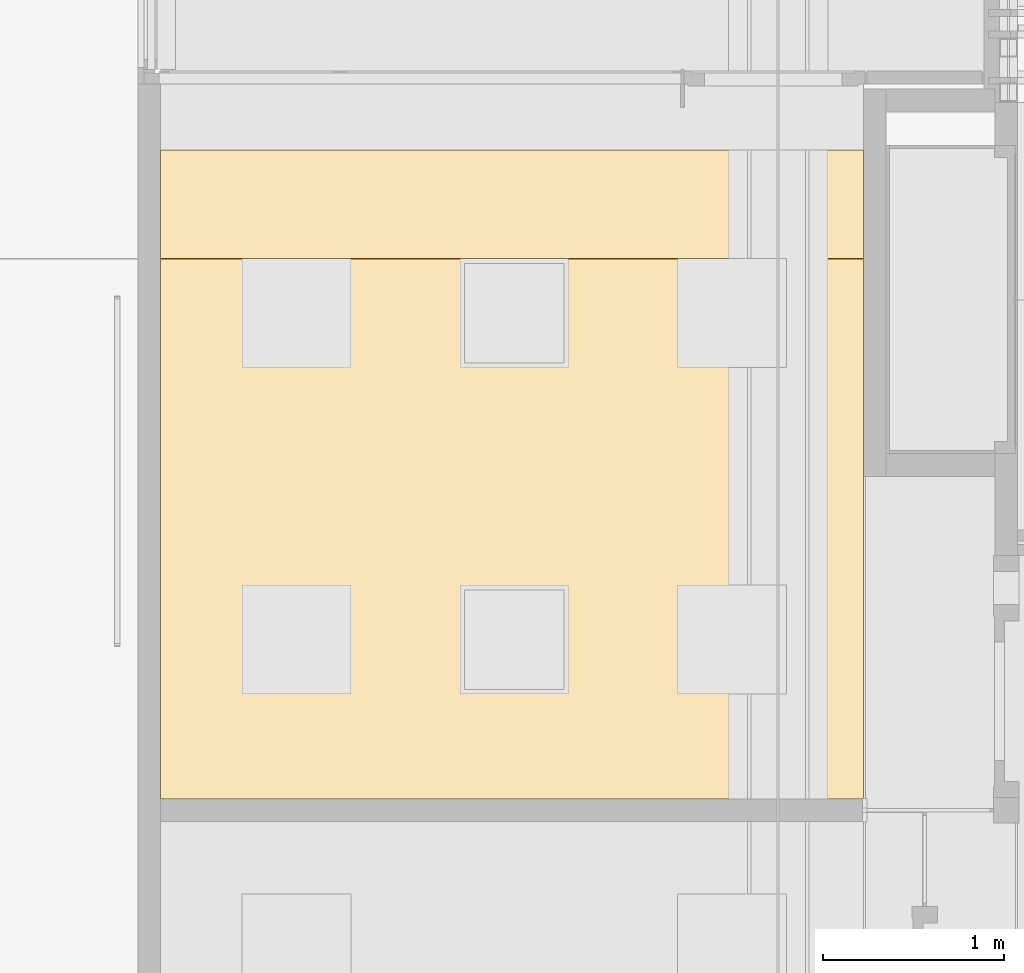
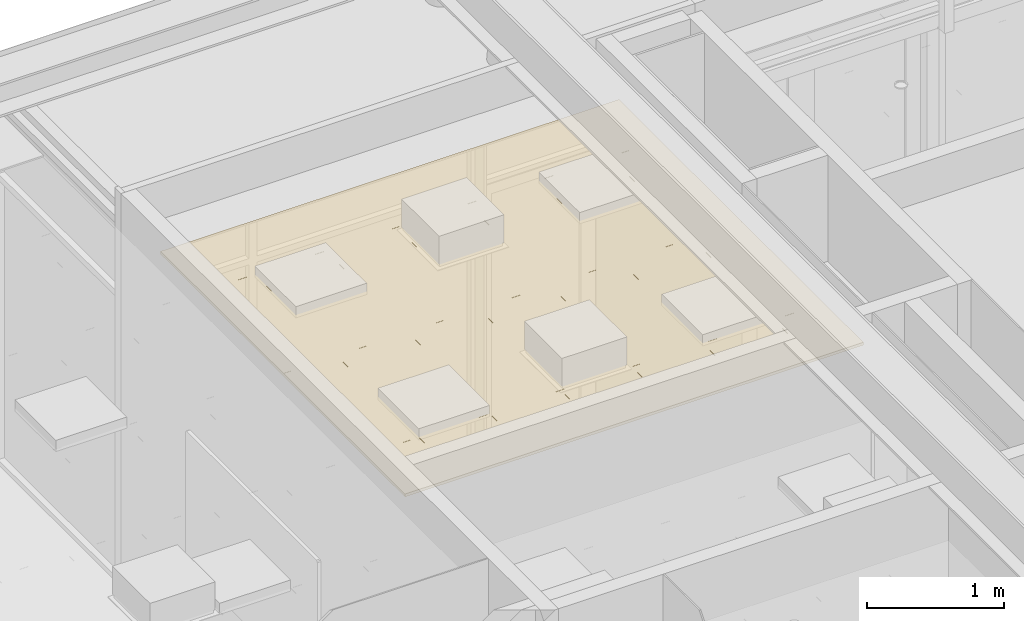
# One storey, part 173 of 347: 1 covering.
"""IFC2X3 building model written with IfcOpenShell, lengths in millimetres."""

from ifc_helpers import new_model, entity, si_unit, converted_unit, derived_unit, money_unit, direction, frame, origin_with_axes, place, context, subcontext, project, spatial, faceted_brep, type_object, element, save


model = new_model("IFC2X3")

# Units and contexts
model_context = context("Model", 3, precision=0.01, world=origin_with_axes(), true_north=direction((0.0, 1.0)))
plan_context = context("Plan", 3, precision=0.01, world=origin_with_axes(), true_north=direction((0.0, 1.0)))
body_context = subcontext(model_context, "Body", "Model", "MODEL_VIEW")
ifc_project = project(units=[si_unit("LENGTHUNIT", "METRE", prefix="MILLI"), si_unit("AREAUNIT", "SQUARE_METRE"), si_unit("VOLUMEUNIT", "CUBIC_METRE"), converted_unit("PLANEANGLEUNIT", "DEGREE", entity("IfcPlaneAngleMeasure", 0.0174532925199), si_unit("PLANEANGLEUNIT", "RADIAN"), dimensions=[0, 0, 0, 0, 0, 0, 0]), money_unit("EUR"), converted_unit("TIMEUNIT", "Year", entity("IfcTimeMeasure", 31556926.0), si_unit("TIMEUNIT", "SECOND"), dimensions=[0, 0, 1, 0, 0, 0, 0]), si_unit("MASSUNIT", "GRAM", prefix="KILO"), si_unit("THERMODYNAMICTEMPERATUREUNIT", "DEGREE_CELSIUS"), si_unit("LUMINOUSINTENSITYUNIT", "LUMEN"), si_unit("ENERGYUNIT", "JOULE", prefix="MEGA"), derived_unit("THERMALCONDUCTANCEUNIT", [(si_unit("POWERUNIT", "WATT"), 1), (si_unit("LENGTHUNIT", "METRE"), -1), (si_unit("THERMODYNAMICTEMPERATUREUNIT", "KELVIN"), -1)]), derived_unit("SPECIFICHEATCAPACITYUNIT", [(si_unit("ENERGYUNIT", "JOULE"), 1), (si_unit("MASSUNIT", "GRAM", prefix="KILO"), -1), (si_unit("THERMODYNAMICTEMPERATUREUNIT", "KELVIN"), -1)]), derived_unit("MASSDENSITYUNIT", [(si_unit("MASSUNIT", "GRAM", prefix="KILO"), 1), (si_unit("VOLUMEUNIT", "CUBIC_METRE"), -1)])], contexts=[model_context, plan_context])

# Site, building, storey
site_placement = place(None, origin_with_axes())
site = spatial("IfcSite", under=ifc_project, at=site_placement, Name="Site", CompositionType="ELEMENT")
building_placement = place(site_placement, origin_with_axes())
building = spatial("IfcBuilding", under=site, at=building_placement, Name="Naam gebouw", CompositionType="ELEMENT")
storey_placement = place(building_placement, origin_with_axes())
storey = spatial("IfcBuildingStorey", under=building, at=storey_placement, Name="begane grond", CompositionType="ELEMENT", Elevation=0.0)

# Covering
covering_type = type_object("IfcCoveringType", Name="Ceiling Editor INT_v2.01", PredefinedType="CEILING")
covering_placement = place(storey_placement, frame((32200.0, 41212.5, 3200.0), z_axis=(0.0, 0.0, 1.0), x_axis=(1.0, 0.0, 0.0)))
element("IfcCovering", 1, at=covering_placement, inside=storey, type_object=covering_type, Name="45 Plafondafwerkingen_77 garderobe", PredefinedType="CEILING", context=body_context, shape_type="Brep", body=[
    faceted_brep([(0.0, 0.0, 20.0), (449.9, 0.0, 20.0), (449.9, 577.9, 20.0), (0.0, 577.9, 20.0), (0.0, 0.0, 0.0), (449.9, 0.0, 0.0), (449.9, 577.9, 0.0), (0.0, 577.9, 0.0)], [[[0, 1, 2, 3]], [[1, 0, 4, 5]], [[1, 5, 6, 2]], [[7, 3, 2, 6]], [[3, 7, 4, 0]], [[4, 7, 6, 5]]]),
    faceted_brep([(0.0, 1777.9, 0.0), (0.0, 1777.9, 20.0), (449.9, 1777.9, 20.0), (449.9, 1777.9, 0.0), (0.0, 978.125, 0.0), (0.0, 978.125, 20.0), (0.0, 578.1, 20.0), (449.9, 578.1, 20.0), (449.9, 578.1, 0.0), (0.0, 578.1, 0.0)], [[[0, 1, 2, 3]], [[1, 0, 4, 5]], [[5, 6, 7, 2, 1]], [[7, 8, 3, 2]], [[4, 0, 3, 8, 9]], [[6, 5, 4, 9]], [[6, 9, 8, 7]]]),
    faceted_brep([(0.000220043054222, 2977.9, 0.0), (0.000220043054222, 2977.9, 20.0), (449.9, 2977.9, 20.0), (449.9, 2977.9, 0.0), (0.0, 2934.375, 0.0), (0.0, 2934.375, 20.0), (0.0, 1956.25, 20.0), (0.0, 1778.1, 20.0), (449.9, 1778.1, 20.0), (449.9, 1778.1, 0.0), (0.0, 1778.1, 0.0), (0.0, 1956.25, 0.0)], [[[0, 1, 2, 3]], [[1, 0, 4, 5]], [[6, 7, 8, 2, 1, 5]], [[8, 9, 3, 2]], [[4, 0, 3, 9, 10, 11]], [[6, 5, 4, 11]], [[7, 6, 11, 10]], [[7, 10, 9, 8]]]),
    faceted_brep([(449.9, 3578.5, 0.0), (449.9, 3578.5, 20.0), (449.9, 2978.1, 20.0), (449.9, 2978.1, 0.0), (0.00325640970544, 3578.5, 0.0), (0.00325640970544, 3578.5, 20.0), (0.000221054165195, 2978.1, 20.0), (0.000221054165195, 2978.1, 0.0)], [[[0, 1, 2, 3]], [[1, 0, 4, 5]], [[5, 6, 2, 1]], [[6, 7, 3, 2]], [[4, 0, 3, 7]], [[6, 5, 4, 7]]]),
    faceted_brep([(968.75, 0.0, 20.0), (1049.9, 0.0, 20.0), (1049.9, 577.9, 20.0), (450.1, 577.9, 20.0), (450.1, 0.0, 20.0), (968.75, 0.0, 0.0), (1049.9, 0.0, 0.0), (1049.9, 577.9, 0.0), (450.1, 577.9, 0.0), (450.1, 0.0, 0.0)], [[[0, 1, 2, 3, 4]], [[1, 0, 5, 6]], [[1, 6, 7, 2]], [[2, 7, 8, 3]], [[9, 4, 3, 8]], [[0, 4, 9, 5]], [[5, 9, 8, 7, 6]]]),
    faceted_brep([(1049.9, 578.1, 20.0), (1049.9, 578.1, 0.0), (1049.9, 1777.9, 0.0), (1049.9, 1777.9, 20.0), (450.1, 578.1, 20.0), (450.1, 578.1, 0.0), (450.1, 1777.9, 0.0), (450.1, 1777.9, 20.0)], [[[0, 1, 2, 3]], [[4, 5, 1, 0]], [[2, 1, 5, 6]], [[3, 2, 6, 7]], [[4, 0, 3, 7]], [[7, 6, 5, 4]]]),
    faceted_brep([(1049.9, 1778.1, 20.0), (1049.9, 1778.1, 0.0), (1049.9, 2977.9, 0.0), (1049.9, 2977.9, 20.0), (450.1, 1778.1, 20.0), (450.1, 1778.1, 0.0), (450.1, 2977.9, 0.0), (450.1, 2977.9, 20.0)], [[[0, 1, 2, 3]], [[4, 5, 1, 0]], [[2, 1, 5, 6]], [[3, 2, 6, 7]], [[4, 0, 3, 7]], [[7, 6, 5, 4]]]),
    faceted_brep([(1049.9, 3578.5, 0.0), (1049.9, 3578.5, 20.0), (1049.9, 2978.1, 20.0), (1049.9, 2978.1, 0.0), (450.1, 3578.5, 0.0), (450.1, 3578.5, 20.0), (450.1, 2978.1, 20.0), (450.1, 2978.1, 0.0)], [[[0, 1, 2, 3]], [[1, 0, 4, 5]], [[1, 5, 6, 2]], [[6, 7, 3, 2]], [[4, 0, 3, 7]], [[5, 4, 7, 6]]]),
    faceted_brep([(1050.1, 0.0, 20.0), (1649.9, 0.0, 20.0), (1649.9, 577.9, 20.0), (1050.1, 577.9, 20.0), (1050.1, 0.0, 0.0), (1649.9, 0.0, 0.0), (1649.9, 577.9, 0.0), (1050.1, 577.9, 0.0)], [[[0, 1, 2, 3]], [[1, 0, 4, 5]], [[1, 5, 6, 2]], [[2, 6, 7, 3]], [[4, 0, 3, 7]], [[5, 4, 7, 6]]]),
    faceted_brep([(1649.9, 578.1, 20.0), (1649.9, 578.1, 0.0), (1649.9, 1777.9, 0.0), (1649.9, 1777.9, 20.0), (1050.1, 578.1, 20.0), (1050.1, 578.1, 0.0), (1050.1, 1777.9, 0.0), (1050.1, 1777.9, 20.0)], [[[0, 1, 2, 3]], [[4, 5, 1, 0]], [[2, 1, 5, 6]], [[3, 2, 6, 7]], [[4, 0, 3, 7]], [[7, 6, 5, 4]]]),
    faceted_brep([(1649.9, 1778.1, 20.0), (1649.9, 1778.1, 0.0), (1649.9, 2977.9, 0.0), (1649.9, 2977.9, 20.0), (1050.1, 1778.1, 20.0), (1050.1, 1778.1, 0.0), (1050.1, 2977.9, 0.0), (1050.1, 2977.9, 20.0)], [[[0, 1, 2, 3]], [[4, 5, 1, 0]], [[2, 1, 5, 6]], [[3, 2, 6, 7]], [[4, 0, 3, 7]], [[7, 6, 5, 4]]]),
    faceted_brep([(1649.9, 3578.5, 0.0), (1649.9, 3578.5, 20.0), (1649.9, 2978.1, 20.0), (1649.9, 2978.1, 0.0), (1222.4308739, 3578.5, 0.0), (1222.4308739, 3578.5, 20.0), (1050.1, 3578.5, 20.0), (1050.1, 2978.1, 20.0), (1050.1, 2978.1, 0.0), (1050.1, 3578.5, 0.0)], [[[0, 1, 2, 3]], [[1, 0, 4, 5]], [[5, 6, 7, 2, 1]], [[7, 8, 3, 2]], [[4, 0, 3, 8, 9]], [[6, 5, 4, 9]], [[6, 9, 8, 7]]]),
    faceted_brep([(1937.5, 0.0, 20.0), (2249.9, 0.0, 20.0), (2249.9, 577.9, 20.0), (1650.1, 577.9, 20.0), (1650.1, 0.0, 20.0), (1937.5, 0.0, 0.0), (2249.9, 0.0, 0.0), (2249.9, 577.9, 0.0), (1650.1, 577.9, 0.0), (1650.1, 0.0, 0.0)], [[[0, 1, 2, 3, 4]], [[1, 0, 5, 6]], [[1, 6, 7, 2]], [[2, 7, 8, 3]], [[9, 4, 3, 8]], [[0, 4, 9, 5]], [[5, 9, 8, 7, 6]]]),
    faceted_brep([(2249.9, 578.1, 20.0), (2249.9, 578.1, 0.0), (2249.9, 1777.9, 0.0), (2249.9, 1777.9, 20.0), (1650.1, 578.1, 20.0), (1650.1, 578.1, 0.0), (1650.1, 1777.9, 0.0), (1650.1, 1777.9, 20.0)], [[[0, 1, 2, 3]], [[4, 5, 1, 0]], [[2, 1, 5, 6]], [[3, 2, 6, 7]], [[4, 0, 3, 7]], [[7, 6, 5, 4]]]),
    faceted_brep([(2249.9, 1778.1, 20.0), (2249.9, 1778.1, 0.0), (2249.9, 2977.9, 0.0), (2249.9, 2977.9, 20.0), (1650.1, 1778.1, 20.0), (1650.1, 1778.1, 0.0), (1650.1, 2977.9, 0.0), (1650.1, 2977.9, 20.0)], [[[0, 1, 2, 3]], [[4, 5, 1, 0]], [[2, 1, 5, 6]], [[3, 2, 6, 7]], [[4, 0, 3, 7]], [[7, 6, 5, 4]]]),
    faceted_brep([(2249.9, 3578.5, 0.0), (2249.9, 3578.5, 20.0), (2249.9, 2978.1, 20.0), (2249.9, 2978.1, 0.0), (2026.99503027, 3578.5, 0.0), (2026.99503027, 3578.5, 20.0), (1650.1, 3578.5, 20.0), (1650.1, 2978.1, 20.0), (1650.1, 2978.1, 0.0), (1650.1, 3578.5, 0.0)], [[[0, 1, 2, 3]], [[1, 0, 4, 5]], [[5, 6, 7, 2, 1]], [[7, 8, 3, 2]], [[4, 0, 3, 8, 9]], [[6, 5, 4, 9]], [[6, 9, 8, 7]]]),
    faceted_brep([(2250.1, 0.0, 20.0), (2849.9, 0.0, 20.0), (2849.9, 577.9, 20.0), (2250.1, 577.9, 20.0), (2250.1, 0.0, 0.0), (2849.9, 0.0, 0.0), (2849.9, 577.9, 0.0), (2250.1, 577.9, 0.0)], [[[0, 1, 2, 3]], [[1, 0, 4, 5]], [[1, 5, 6, 2]], [[2, 6, 7, 3]], [[4, 0, 3, 7]], [[5, 4, 7, 6]]]),
    faceted_brep([(2849.9, 578.1, 20.0), (2849.9, 578.1, 0.0), (2849.9, 1777.9, 0.0), (2849.9, 1777.9, 20.0), (2250.1, 578.1, 20.0), (2250.1, 578.1, 0.0), (2250.1, 1777.9, 0.0), (2250.1, 1777.9, 20.0)], [[[0, 1, 2, 3]], [[4, 5, 1, 0]], [[2, 1, 5, 6]], [[3, 2, 6, 7]], [[4, 0, 3, 7]], [[7, 6, 5, 4]]]),
    faceted_brep([(2849.9, 1778.1, 20.0), (2849.9, 1778.1, 0.0), (2849.9, 2977.9, 0.0), (2849.9, 2977.9, 20.0), (2250.1, 1778.1, 20.0), (2250.1, 1778.1, 0.0), (2250.1, 2977.9, 0.0), (2250.1, 2977.9, 20.0)], [[[0, 1, 2, 3]], [[4, 5, 1, 0]], [[2, 1, 5, 6]], [[3, 2, 6, 7]], [[4, 0, 3, 7]], [[7, 6, 5, 4]]]),
    faceted_brep([(2849.9, 3578.5, 0.0), (2849.9, 3578.5, 20.0), (2849.9, 2978.1, 20.0), (2849.9, 2978.1, 0.0), (2748.79430981, 3578.5, 0.0), (2748.79430981, 3578.5, 20.0), (2250.1, 3578.5, 20.0), (2250.1, 2978.1, 20.0), (2250.1, 2978.1, 0.0), (2250.1, 3578.5, 0.0)], [[[0, 1, 2, 3]], [[1, 0, 4, 5]], [[5, 6, 7, 2, 1]], [[7, 8, 3, 2]], [[4, 0, 3, 8, 9]], [[6, 5, 4, 9]], [[6, 9, 8, 7]]]),
    faceted_brep([(2906.25, 0.0, 20.0), (3449.9, 0.0, 20.0), (3449.9, 577.9, 20.0), (2850.1, 577.9, 20.0), (2850.1, 0.0, 20.0), (2906.25, 0.0, 0.0), (3449.9, 0.0, 0.0), (3449.9, 577.9, 0.0), (2850.1, 577.9, 0.0), (2850.1, 0.0, 0.0)], [[[0, 1, 2, 3, 4]], [[1, 0, 5, 6]], [[1, 6, 7, 2]], [[2, 7, 8, 3]], [[9, 4, 3, 8]], [[0, 4, 9, 5]], [[5, 9, 8, 7, 6]]]),
    faceted_brep([(3449.9, 578.1, 20.0), (3449.9, 578.1, 0.0), (3449.9, 1777.9, 0.0), (3449.9, 1777.9, 20.0), (2850.1, 578.1, 20.0), (2850.1, 578.1, 0.0), (2850.1, 1777.9, 0.0), (2850.1, 1777.9, 20.0)], [[[0, 1, 2, 3]], [[4, 5, 1, 0]], [[2, 1, 5, 6]], [[3, 2, 6, 7]], [[4, 0, 3, 7]], [[7, 6, 5, 4]]]),
    faceted_brep([(3449.9, 1778.1, 20.0), (3449.9, 1778.1, 0.0), (3449.9, 2977.9, 0.0), (3449.9, 2977.9, 20.0), (2850.1, 1778.1, 20.0), (2850.1, 1778.1, 0.0), (2850.1, 2977.9, 0.0), (2850.1, 2977.9, 20.0)], [[[0, 1, 2, 3]], [[4, 5, 1, 0]], [[2, 1, 5, 6]], [[3, 2, 6, 7]], [[4, 0, 3, 7]], [[7, 6, 5, 4]]]),
    faceted_brep([(3449.9, 3578.5, 0.0), (3449.9, 3578.5, 20.0), (3449.9, 2978.1, 20.0), (3449.9, 2978.1, 0.0), (2850.1, 3578.5, 0.0), (2850.1, 3578.5, 20.0), (2850.1, 2978.1, 20.0), (2850.1, 2978.1, 0.0)], [[[0, 1, 2, 3]], [[1, 0, 4, 5]], [[1, 5, 6, 2]], [[6, 7, 3, 2]], [[4, 0, 3, 7]], [[5, 4, 7, 6]]]),
    faceted_brep([(3875.0, 0.0, 20.0), (3875.0, 577.9, 20.0), (3450.1, 577.9, 20.0), (3450.1, 0.0, 20.0), (3875.0, 0.0, 0.0), (3875.0, 577.9, 0.0), (3450.1, 577.9, 0.0), (3450.1, 0.0, 0.0)], [[[0, 1, 2, 3]], [[1, 0, 4, 5]], [[1, 5, 6, 2]], [[7, 3, 2, 6]], [[0, 3, 7, 4]], [[4, 7, 6, 5]]]),
    faceted_brep([(3875.0, 578.1, 20.0), (3875.0, 1777.9, 20.0), (3450.1, 1777.9, 20.0), (3450.1, 578.1, 20.0), (3875.0, 578.1, 0.0), (3875.0, 1777.9, 0.0), (3450.1, 1777.9, 0.0), (3450.1, 578.1, 0.0)], [[[0, 1, 2, 3]], [[1, 0, 4, 5]], [[1, 5, 6, 2]], [[2, 6, 7, 3]], [[4, 0, 3, 7]], [[5, 4, 7, 6]]]),
    faceted_brep([(3875.0, 2934.375, 20.0), (3875.0, 2977.9, 20.0), (3450.1, 2977.9, 20.0), (3450.1, 1778.1, 20.0), (3875.0, 1778.1, 20.0), (3875.0, 2934.375, 0.0), (3875.0, 2977.9, 0.0), (3450.1, 2977.9, 0.0), (3450.1, 1778.1, 0.0), (3875.0, 1778.1, 0.0)], [[[0, 1, 2, 3, 4]], [[1, 0, 5, 6]], [[1, 6, 7, 2]], [[2, 7, 8, 3]], [[9, 4, 3, 8]], [[0, 4, 9, 5]], [[5, 9, 8, 7, 6]]]),
    faceted_brep([(3875.0, 2978.1, 20.0), (3875.0, 3578.5, 20.0), (3450.1, 3578.5, 20.0), (3450.1, 2978.1, 20.0), (3875.0, 2978.1, 0.0), (3875.0, 3578.5, 0.0), (3450.1, 3578.5, 0.0), (3450.1, 2978.1, 0.0)], [[[0, 1, 2, 3]], [[1, 0, 4, 5]], [[2, 1, 5, 6]], [[2, 6, 7, 3]], [[4, 0, 3, 7]], [[5, 4, 7, 6]]]),
    faceted_brep([(3875.0, 0.0, 0.0), (3875.0, 0.0, -5.0), (3875.0, 565.5, -5.0), (3875.0, 590.5, -5.0), (3875.0, 1765.5, -5.0), (3875.0, 1778.0, -5.0), (3875.0, 1778.0, 0.0), (3875.0, 1765.5, 0.0), (3875.0, 590.5, 0.0), (3875.0, 565.5, 0.0), (1662.5, 0.0, -5.0), (2237.5, 0.0, -5.0), (2262.5, 0.0, -5.0), (2837.5, 0.0, -5.0), (2862.5, 0.0, -5.0), (3437.5, 0.0, -5.0), (3462.5, 0.0, -5.0), (3462.5, 0.0, 0.0), (3437.5, 0.0, 0.0), (2862.5, 0.0, 0.0), (2837.5, 0.0, 0.0), (2262.5, 0.0, 0.0), (2237.5, 0.0, 0.0), (1662.5, 0.0, 0.0), (1637.5, 0.0, 0.0), (1062.5, 0.0, 0.0), (1037.5, 0.0, 0.0), (462.5, 0.0, 0.0), (437.5, 0.0, 0.0), (0.0, 0.0, 0.0), (0.0, 0.0, -5.0), (437.5, 0.0, -5.0), (462.5, 0.0, -5.0), (1037.5, 0.0, -5.0), (1062.5, 0.0, -5.0), (1637.5, 0.0, -5.0), (0.0, 565.5, -5.0), (0.0, 590.5, -5.0), (0.0, 1765.5, -5.0), (0.0, 1790.5, -5.0), (0.000157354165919, 2965.5, -5.0), (0.000283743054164, 2990.5, -5.0), (0.00325640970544, 3578.5, -5.0), (437.5, 3578.5, -5.0), (462.5, 3578.5, -5.0), (1037.5, 3578.5, -5.0), (1062.5, 3578.5, -5.0), (1637.5, 3578.5, -5.0), (1662.5, 3578.5, -5.0), (2237.5, 3578.5, -5.0), (2262.5, 3578.5, -5.0), (2837.5, 3578.5, -5.0), (2862.5, 3578.5, -5.0), (3437.5, 3578.5, -5.0), (3462.5, 3578.5, -5.0), (3875.0, 3578.5, -5.0), (3875.0, 2990.5, -5.0), (3875.0, 2965.5, -5.0), (3875.0, 1790.5, -5.0), (1037.5, 590.5, -5.0), (1037.5, 1765.5, -5.0), (462.5, 1765.5, -5.0), (462.5, 590.5, -5.0), (1637.5, 590.5, -5.0), (1637.5, 1765.5, -5.0), (1062.5, 1765.5, -5.0), (1062.5, 590.5, -5.0), (2237.5, 590.5, -5.0), (2237.5, 1765.5, -5.0), (1662.5, 1765.5, -5.0), (1662.5, 590.5, -5.0), (2837.5, 590.5, -5.0), (2837.5, 1765.5, -5.0), (2262.5, 1765.5, -5.0), (2262.5, 590.5, -5.0), (3437.5, 590.5, -5.0), (3437.5, 1765.5, -5.0), (2862.5, 1765.5, -5.0), (2862.5, 590.5, -5.0), (1037.5, 1790.5, -5.0), (1037.5, 2965.5, -5.0), (462.5, 2965.5, -5.0), (462.5, 1790.5, -5.0), (1637.5, 1790.5, -5.0), (1637.5, 2965.5, -5.0), (1062.5, 2965.5, -5.0), (1062.5, 1790.5, -5.0), (2237.5, 1790.5, -5.0), (2237.5, 2965.5, -5.0), (1662.5, 2965.5, -5.0), (1662.5, 1790.5, -5.0), (2837.5, 1790.5, -5.0), (2837.5, 2965.5, -5.0), (2262.5, 2965.5, -5.0), (2262.5, 1790.5, -5.0), (3437.5, 1790.5, -5.0), (3437.5, 2965.5, -5.0), (2862.5, 2965.5, -5.0), (2862.5, 1790.5, -5.0), (25.0, 565.5, -5.0), (25.0, 25.0, -5.0), (437.5, 25.0, -5.0), (437.5, 565.5, -5.0), (25.0, 1765.5, -5.0), (25.0, 590.5, -5.0), (437.5, 590.5, -5.0), (437.5, 1765.5, -5.0), (25.0001573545, 2965.5, -5.0), (25.0, 1790.5, -5.0), (437.5, 1790.5, -5.0), (437.5, 2965.5, -5.0), (437.5, 3553.5, -5.0), (25.0031300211, 3553.5, -5.0), (25.0002837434, 2990.5, -5.0), (437.5, 2990.5, -5.0), (1037.5, 3553.5, -5.0), (462.5, 3553.5, -5.0), (462.5, 2990.5, -5.0), (1037.5, 2990.5, -5.0), (1637.5, 3553.5, -5.0), (1062.5, 3553.5, -5.0), (1062.5, 2990.5, -5.0), (1637.5, 2990.5, -5.0), (2237.5, 3553.5, -5.0), (1662.5, 3553.5, -5.0), (1662.5, 2990.5, -5.0), (2237.5, 2990.5, -5.0), (2837.5, 3553.5, -5.0), (2262.5, 3553.5, -5.0), (2262.5, 2990.5, -5.0), (2837.5, 2990.5, -5.0), (3437.5, 3553.5, -5.0), (2862.5, 3553.5, -5.0), (2862.5, 2990.5, -5.0), (3437.5, 2990.5, -5.0), (3850.0, 3553.5, -5.0), (3462.5, 3553.5, -5.0), (3462.5, 2990.5, -5.0), (3850.0, 2990.5, -5.0), (3850.0, 2965.5, -5.0), (3462.5, 2965.5, -5.0), (3462.5, 1790.5, -5.0), (3850.0, 1790.5, -5.0), (3850.0, 1765.5, -5.0), (3462.5, 1765.5, -5.0), (3462.5, 590.5, -5.0), (3850.0, 590.5, -5.0), (3850.0, 25.0, -5.0), (3850.0, 565.5, -5.0), (3462.5, 565.5, -5.0), (3462.5, 25.0, -5.0), (2837.5, 25.0, -5.0), (2837.5, 565.5, -5.0), (2262.5, 565.5, -5.0), (2262.5, 25.0, -5.0), (3437.5, 25.0, -5.0), (3437.5, 565.5, -5.0), (2862.5, 565.5, -5.0), (2862.5, 25.0, -5.0), (1037.5, 25.0, -5.0), (1037.5, 565.5, -5.0), (462.5, 565.5, -5.0), (462.5, 25.0, -5.0), (1637.5, 25.0, -5.0), (1637.5, 565.5, -5.0), (1062.5, 565.5, -5.0), (1062.5, 25.0, -5.0), (2237.5, 25.0, -5.0), (2237.5, 565.5, -5.0), (1662.5, 565.5, -5.0), (1662.5, 25.0, -5.0), (3875.0, 3578.5, 0.0), (3875.0, 2990.5, 0.0), (3875.0, 2965.5, 0.0), (3875.0, 1790.5, 0.0), (3462.5, 3578.5, 0.0), (3437.5, 3578.5, 0.0), (2862.5, 3578.5, 0.0), (2837.5, 3578.5, 0.0), (2262.5, 3578.5, 0.0), (2237.5, 3578.5, 0.0), (1662.5, 3578.5, 0.0), (1637.5, 3578.5, 0.0), (1062.5, 3578.5, 0.0), (1037.5, 3578.5, 0.0), (462.5, 3578.5, 0.0), (437.5, 3578.5, 0.0), (0.00325640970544, 3578.5, 0.0), (0.000283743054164, 2990.5, 0.0), (0.000157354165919, 2965.5, 0.0), (0.0, 1790.5, 0.0), (0.0, 1765.5, 0.0), (0.0, 590.5, 0.0), (0.0, 565.5, 0.0), (462.5, 1765.5, 0.0), (1037.5, 1765.5, 0.0), (1037.5, 590.5, 0.0), (462.5, 590.5, 0.0), (1062.5, 1765.5, 0.0), (1637.5, 1765.5, 0.0), (1637.5, 590.5, 0.0), (1062.5, 590.5, 0.0), (1662.5, 1765.5, 0.0), (2237.5, 1765.5, 0.0), (2237.5, 590.5, 0.0), (1662.5, 590.5, 0.0), (2262.5, 1765.5, 0.0), (2837.5, 1765.5, 0.0), (2837.5, 590.5, 0.0), (2262.5, 590.5, 0.0), (2862.5, 1765.5, 0.0), (3437.5, 1765.5, 0.0), (3437.5, 590.5, 0.0), (2862.5, 590.5, 0.0), (462.5, 2965.5, 0.0), (1037.5, 2965.5, 0.0), (1037.5, 1790.5, 0.0), (462.5, 1790.5, 0.0), (1062.5, 2965.5, 0.0), (1637.5, 2965.5, 0.0), (1637.5, 1790.5, 0.0), (1062.5, 1790.5, 0.0), (1662.5, 2965.5, 0.0), (2237.5, 2965.5, 0.0), (2237.5, 1790.5, 0.0), (1662.5, 1790.5, 0.0), (2262.5, 2965.5, 0.0), (2837.5, 2965.5, 0.0), (2837.5, 1790.5, 0.0), (2262.5, 1790.5, 0.0), (2862.5, 2965.5, 0.0), (3437.5, 2965.5, 0.0), (3437.5, 1790.5, 0.0), (2862.5, 1790.5, 0.0), (25.0, 565.5, 0.0), (437.5, 565.5, 0.0), (437.5, 25.0, 0.0), (25.0, 25.0, 0.0), (25.0, 1765.5, 0.0), (437.5, 1765.5, 0.0), (437.5, 590.5, 0.0), (25.0, 590.5, 0.0), (25.0001573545, 2965.5, 0.0), (437.5, 2965.5, 0.0), (437.5, 1790.5, 0.0), (25.0, 1790.5, 0.0), (437.5, 3553.5, 0.0), (437.5, 2990.5, 0.0), (25.0002837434, 2990.5, 0.0), (25.0031300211, 3553.5, 0.0), (1037.5, 3553.5, 0.0), (1037.5, 2990.5, 0.0), (462.5, 2990.5, 0.0), (462.5, 3553.5, 0.0), (1637.5, 3553.5, 0.0), (1637.5, 2990.5, 0.0), (1062.5, 2990.5, 0.0), (1062.5, 3553.5, 0.0), (2237.5, 3553.5, 0.0), (2237.5, 2990.5, 0.0), (1662.5, 2990.5, 0.0), (1662.5, 3553.5, 0.0), (2837.5, 3553.5, 0.0), (2837.5, 2990.5, 0.0), (2262.5, 2990.5, 0.0), (2262.5, 3553.5, 0.0), (3437.5, 3553.5, 0.0), (3437.5, 2990.5, 0.0), (2862.5, 2990.5, 0.0), (2862.5, 3553.5, 0.0), (3850.0, 3553.5, 0.0), (3850.0, 2990.5, 0.0), (3462.5, 2990.5, 0.0), (3462.5, 3553.5, 0.0), (3850.0, 1790.5, 0.0), (3462.5, 1790.5, 0.0), (3462.5, 2965.5, 0.0), (3850.0, 2965.5, 0.0), (3850.0, 590.5, 0.0), (3462.5, 590.5, 0.0), (3462.5, 1765.5, 0.0), (3850.0, 1765.5, 0.0), (3850.0, 25.0, 0.0), (3462.5, 25.0, 0.0), (3462.5, 565.5, 0.0), (3850.0, 565.5, 0.0), (2837.5, 25.0, 0.0), (2262.5, 25.0, 0.0), (2262.5, 565.5, 0.0), (2837.5, 565.5, 0.0), (2862.5, 25.0, 0.0), (2862.5, 565.5, 0.0), (3437.5, 565.5, 0.0), (3437.5, 25.0, 0.0), (1037.5, 25.0, 0.0), (462.5, 25.0, 0.0), (462.5, 565.5, 0.0), (1037.5, 565.5, 0.0), (1637.5, 25.0, 0.0), (1062.5, 25.0, 0.0), (1062.5, 565.5, 0.0), (1637.5, 565.5, 0.0), (1662.5, 25.0, 0.0), (1662.5, 565.5, 0.0), (2237.5, 565.5, 0.0), (2237.5, 25.0, 0.0)], [[[0, 1, 2, 3, 4, 5, 6, 7, 8, 9]], [[10, 11, 12, 13, 14, 15, 16, 1, 0, 17, 18, 19, 20, 21, 22, 23, 24, 25, 26, 27, 28, 29, 30, 31, 32, 33, 34, 35]], [[10, 35, 34, 33, 32, 31, 30, 36, 37, 38, 39, 40, 41, 42, 43, 44, 45, 46, 47, 48, 49, 50, 51, 52, 53, 54, 55, 56, 57, 58, 5, 4, 3, 2, 1, 16, 15, 14, 13, 12, 11], [59, 60, 61, 62], [63, 64, 65, 66], [67, 68, 69, 70], [71, 72, 73, 74], [75, 76, 77, 78], [79, 80, 81, 82], [83, 84, 85, 86], [87, 88, 89, 90], [91, 92, 93, 94], [95, 96, 97, 98], [99, 100, 101, 102], [103, 104, 105, 106], [107, 108, 109, 110], [111, 112, 113, 114], [115, 116, 117, 118], [119, 120, 121, 122], [123, 124, 125, 126], [127, 128, 129, 130], [131, 132, 133, 134], [135, 136, 137, 138], [139, 140, 141, 142], [143, 144, 145, 146], [147, 148, 149, 150], [151, 152, 153, 154], [155, 156, 157, 158], [159, 160, 161, 162], [163, 164, 165, 166], [167, 168, 169, 170]], [[58, 57, 56, 55, 171, 172, 173, 174, 6, 5]], [[22, 21, 20, 19, 18, 17, 0, 9, 8, 7, 6, 174, 173, 172, 171, 175, 176, 177, 178, 179, 180, 181, 182, 183, 184, 185, 186, 187, 188, 189, 190, 191, 192, 193, 29, 28, 27, 26, 25, 24, 23], [194, 195, 196, 197], [198, 199, 200, 201], [202, 203, 204, 205], [206, 207, 208, 209], [210, 211, 212, 213], [214, 215, 216, 217], [218, 219, 220, 221], [222, 223, 224, 225], [226, 227, 228, 229], [230, 231, 232, 233], [234, 235, 236, 237], [238, 239, 240, 241], [242, 243, 244, 245], [246, 247, 248, 249], [250, 251, 252, 253], [254, 255, 256, 257], [258, 259, 260, 261], [262, 263, 264, 265], [266, 267, 268, 269], [270, 271, 272, 273], [274, 275, 276, 277], [278, 279, 280, 281], [282, 283, 284, 285], [286, 287, 288, 289], [290, 291, 292, 293], [294, 295, 296, 297], [298, 299, 300, 301], [302, 303, 304, 305]], [[187, 42, 41, 40, 39, 38, 37, 36, 30, 29, 193, 192, 191, 190, 189, 188]], [[171, 55, 54, 53, 52, 51, 50, 49, 48, 47, 46, 45, 44, 43, 42, 187, 186, 185, 184, 183, 182, 181, 180, 179, 178, 177, 176, 175]], [[196, 195, 60, 59]], [[61, 60, 195, 194]], [[62, 61, 194, 197]], [[197, 196, 59, 62]], [[200, 199, 64, 63]], [[65, 64, 199, 198]], [[66, 65, 198, 201]], [[201, 200, 63, 66]], [[204, 203, 68, 67]], [[69, 68, 203, 202]], [[70, 69, 202, 205]], [[205, 204, 67, 70]], [[208, 207, 72, 71]], [[73, 72, 207, 206]], [[74, 73, 206, 209]], [[209, 208, 71, 74]], [[212, 211, 76, 75]], [[77, 76, 211, 210]], [[78, 77, 210, 213]], [[213, 212, 75, 78]], [[216, 215, 80, 79]], [[81, 80, 215, 214]], [[82, 81, 214, 217]], [[217, 216, 79, 82]], [[220, 219, 84, 83]], [[85, 84, 219, 218]], [[86, 85, 218, 221]], [[221, 220, 83, 86]], [[224, 223, 88, 87]], [[89, 88, 223, 222]], [[90, 89, 222, 225]], [[225, 224, 87, 90]], [[228, 227, 92, 91]], [[93, 92, 227, 226]], [[94, 93, 226, 229]], [[229, 228, 91, 94]], [[232, 231, 96, 95]], [[97, 96, 231, 230]], [[98, 97, 230, 233]], [[233, 232, 95, 98]], [[99, 234, 237, 100]], [[100, 237, 236, 101]], [[101, 236, 235, 102]], [[234, 99, 102, 235]], [[103, 238, 241, 104]], [[104, 241, 240, 105]], [[240, 239, 106, 105]], [[238, 103, 106, 239]], [[107, 242, 245, 108]], [[108, 245, 244, 109]], [[244, 243, 110, 109]], [[242, 107, 110, 243]], [[111, 246, 249, 112]], [[112, 249, 248, 113]], [[113, 248, 247, 114]], [[246, 111, 114, 247]], [[115, 250, 253, 116]], [[116, 253, 252, 117]], [[252, 251, 118, 117]], [[250, 115, 118, 251]], [[119, 254, 257, 120]], [[120, 257, 256, 121]], [[256, 255, 122, 121]], [[254, 119, 122, 255]], [[123, 258, 261, 124]], [[124, 261, 260, 125]], [[260, 259, 126, 125]], [[258, 123, 126, 259]], [[127, 262, 265, 128]], [[128, 265, 264, 129]], [[264, 263, 130, 129]], [[262, 127, 130, 263]], [[131, 266, 269, 132]], [[132, 269, 268, 133]], [[268, 267, 134, 133]], [[266, 131, 134, 267]], [[135, 270, 273, 136]], [[136, 273, 272, 137]], [[271, 138, 137, 272]], [[270, 135, 138, 271]], [[139, 277, 276, 140]], [[141, 140, 276, 275]], [[274, 142, 141, 275]], [[274, 277, 139, 142]], [[143, 281, 280, 144]], [[145, 144, 280, 279]], [[278, 146, 145, 279]], [[278, 281, 143, 146]], [[147, 282, 285, 148]], [[148, 285, 284, 149]], [[283, 150, 149, 284]], [[282, 147, 150, 283]], [[151, 286, 289, 152]], [[153, 152, 289, 288]], [[287, 154, 153, 288]], [[286, 151, 154, 287]], [[155, 293, 292, 156]], [[157, 156, 292, 291]], [[290, 158, 157, 291]], [[290, 293, 155, 158]], [[159, 294, 297, 160]], [[161, 160, 297, 296]], [[295, 162, 161, 296]], [[294, 159, 162, 295]], [[163, 298, 301, 164]], [[165, 164, 301, 300]], [[299, 166, 165, 300]], [[298, 163, 166, 299]], [[167, 305, 304, 168]], [[169, 168, 304, 303]], [[302, 170, 169, 303]], [[302, 305, 167, 170]]]),
])

save(model, "model.ifc")
